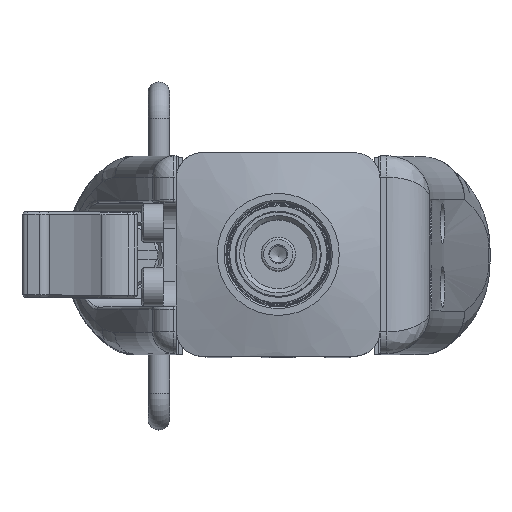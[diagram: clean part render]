
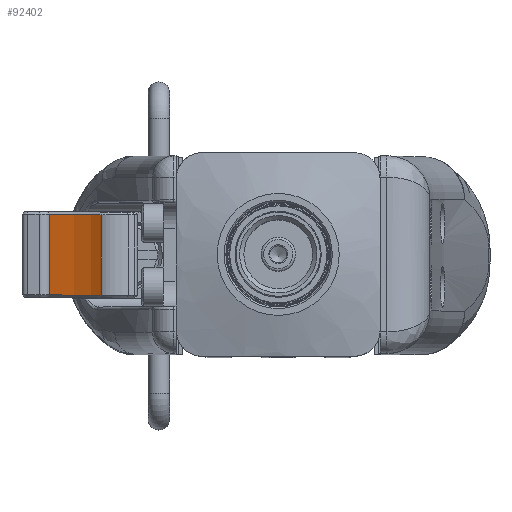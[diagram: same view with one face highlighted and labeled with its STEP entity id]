
A CAD part, top view. The second image highlights one B-rep face of the part: STEP entity #92402.
In plain terms, the highlighted cylindrical face has radius 53.6 mm (diameter 107.2 mm), a partial arc.
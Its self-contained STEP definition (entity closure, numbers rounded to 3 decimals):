
#5746 = DIRECTION ( 'NONE',  ( 0., 1., 0. ) ) ;
#7933 = DIRECTION ( 'NONE',  ( 0., 0., -1. ) ) ;
#9445 = EDGE_CURVE ( 'NONE', #39552, #21038, #75358, .T. ) ;
#11379 = AXIS2_PLACEMENT_3D ( 'NONE', #54569, #85838, #7933 ) ;
#21038 = VERTEX_POINT ( 'NONE', #51418 ) ;
#21643 = CARTESIAN_POINT ( 'NONE',  ( -20.601, -4.7, 18.502 ) ) ;
#23589 = DIRECTION ( 'NONE',  ( 0., 1., 0. ) ) ;
#27638 = DIRECTION ( 'NONE',  ( 0., 0., 1. ) ) ;
#28805 = CYLINDRICAL_SURFACE ( 'NONE', #74755, 53.6 ) ;
#29828 = FACE_OUTER_BOUND ( 'NONE', #52225, .T. ) ;
#30999 = AXIS2_PLACEMENT_3D ( 'NONE', #99892, #60936, #27638 ) ;
#33367 = EDGE_CURVE ( 'NONE', #21038, #90518, #93167, .T. ) ;
#35380 = ORIENTED_EDGE ( 'NONE', *, *, #79097, .F. ) ;
#36018 = DIRECTION ( 'NONE',  ( 0., 0., 1. ) ) ;
#39552 = VERTEX_POINT ( 'NONE', #53587 ) ;
#43046 = ORIENTED_EDGE ( 'NONE', *, *, #33367, .F. ) ;
#43973 = ORIENTED_EDGE ( 'NONE', *, *, #9445, .F. ) ;
#51418 = CARTESIAN_POINT ( 'NONE',  ( -26.663, 4.7, 45.708 ) ) ;
#52225 = EDGE_LOOP ( 'NONE', ( #43973, #35380, #67041, #43046 ) ) ;
#53587 = CARTESIAN_POINT ( 'NONE',  ( -26.663, -4.7, 45.708 ) ) ;
#54569 = CARTESIAN_POINT ( 'NONE',  ( -74.15, 4.7, 20.85 ) ) ;
#57180 = EDGE_CURVE ( 'NONE', #61448, #90518, #91815, .T. ) ;
#60936 = DIRECTION ( 'NONE',  ( 0., -1., 0. ) ) ;
#61448 = VERTEX_POINT ( 'NONE', #21643 ) ;
#62056 = VECTOR ( 'NONE', #23589, 1000. ) ;
#62078 = CARTESIAN_POINT ( 'NONE',  ( -20.601, 4.7, 18.502 ) ) ;
#67041 = ORIENTED_EDGE ( 'NONE', *, *, #57180, .T. ) ;
#68113 = VECTOR ( 'NONE', #91224, 1000. ) ;
#68789 = CARTESIAN_POINT ( 'NONE',  ( -74.15, -5., 20.85 ) ) ;
#74755 = AXIS2_PLACEMENT_3D ( 'NONE', #68789, #5746, #36018 ) ;
#75197 = CIRCLE ( 'NONE', #30999, 53.6 ) ;
#75358 = LINE ( 'NONE', #98415, #68113 ) ;
#79097 = EDGE_CURVE ( 'NONE', #61448, #39552, #75197, .T. ) ;
#84624 = CARTESIAN_POINT ( 'NONE',  ( -20.601, -5., 18.502 ) ) ;
#85838 = DIRECTION ( 'NONE',  ( 0., 1., 0. ) ) ;
#90518 = VERTEX_POINT ( 'NONE', #62078 ) ;
#91224 = DIRECTION ( 'NONE',  ( 0., 1., 0. ) ) ;
#91815 = LINE ( 'NONE', #84624, #62056 ) ;
#92402 = ADVANCED_FACE ( 'NONE', ( #29828 ), #28805, .T. ) ;
#93167 = CIRCLE ( 'NONE', #11379, 53.6 ) ;
#98415 = CARTESIAN_POINT ( 'NONE',  ( -26.663, 18.036, 45.708 ) ) ;
#99892 = CARTESIAN_POINT ( 'NONE',  ( -74.15, -4.7, 20.85 ) ) ;
